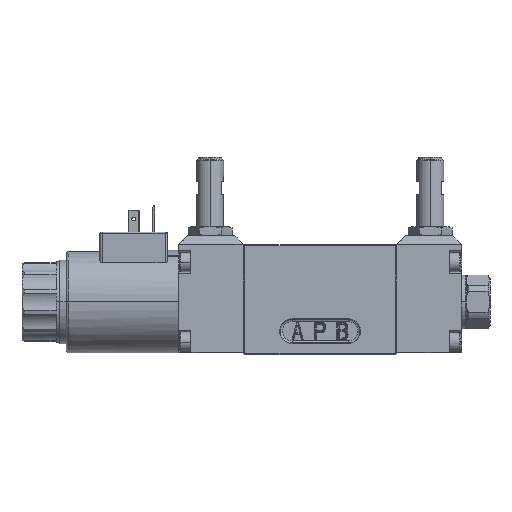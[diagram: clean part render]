
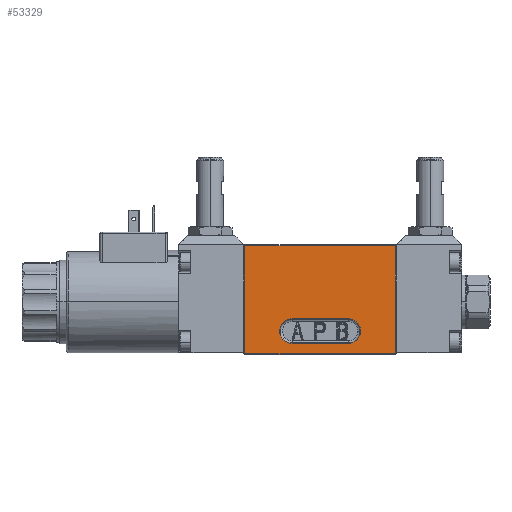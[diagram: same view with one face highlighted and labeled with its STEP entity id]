
A CAD part, top view. The second image highlights one B-rep face of the part: STEP entity #53329.
In plain terms, the highlighted planar face has unit normal (0, 0, 1).
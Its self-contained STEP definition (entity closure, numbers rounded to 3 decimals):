
#1844 = VERTEX_POINT ( 'NONE', #45154 ) ;
#4554 = CIRCLE ( 'NONE', #81325, 5.471 ) ;
#4630 = EDGE_CURVE ( 'NONE', #50655, #25765, #44334, .T. ) ;
#8111 = LINE ( 'NONE', #74938, #25015 ) ;
#8466 = ORIENTED_EDGE ( 'NONE', *, *, #73777, .T. ) ;
#11194 = LINE ( 'NONE', #11579, #74013 ) ;
#11559 = CARTESIAN_POINT ( 'NONE',  ( 33.5, -24., 23. ) ) ;
#11579 = CARTESIAN_POINT ( 'NONE',  ( 12.5, -18.971, 23. ) ) ;
#13058 = FACE_BOUND ( 'NONE', #48608, .T. ) ;
#13321 = CARTESIAN_POINT ( 'NONE',  ( 12.5, -13.5, 23. ) ) ;
#13627 = LINE ( 'NONE', #33907, #23754 ) ;
#13854 = ORIENTED_EDGE ( 'NONE', *, *, #81715, .T. ) ;
#13978 = AXIS2_PLACEMENT_3D ( 'NONE', #13321, #35913, #70758 ) ;
#15105 = AXIS2_PLACEMENT_3D ( 'NONE', #70389, #77564, #84764 ) ;
#17085 = VECTOR ( 'NONE', #89185, 1000. ) ;
#17713 = CARTESIAN_POINT ( 'NONE',  ( -33.5, 24.5, 23. ) ) ;
#18570 = VERTEX_POINT ( 'NONE', #28247 ) ;
#18616 = VECTOR ( 'NONE', #72155, 1000. ) ;
#20267 = DIRECTION ( 'NONE',  ( 0., 0., -1. ) ) ;
#23391 = CARTESIAN_POINT ( 'NONE',  ( 33.5, 24.5, 23. ) ) ;
#23754 = VECTOR ( 'NONE', #27334, 1000. ) ;
#24979 = CARTESIAN_POINT ( 'NONE',  ( 17.971, -13.5, 23. ) ) ;
#25015 = VECTOR ( 'NONE', #39162, 1000. ) ;
#25437 = ORIENTED_EDGE ( 'NONE', *, *, #57329, .T. ) ;
#25765 = VERTEX_POINT ( 'NONE', #23391 ) ;
#26039 = DIRECTION ( 'NONE',  ( 0., 1., 0. ) ) ;
#27023 = CARTESIAN_POINT ( 'NONE',  ( -12.5, -8.029, 23. ) ) ;
#27334 = DIRECTION ( 'NONE',  ( -1., 0., 0. ) ) ;
#28247 = CARTESIAN_POINT ( 'NONE',  ( -33.5, -23.5, 23. ) ) ;
#28640 = DIRECTION ( 'NONE',  ( 1., 0., 0. ) ) ;
#28954 = DIRECTION ( 'NONE',  ( 0., 0., 1. ) ) ;
#31031 = LINE ( 'NONE', #43986, #18616 ) ;
#33110 = VERTEX_POINT ( 'NONE', #17713 ) ;
#33357 = EDGE_CURVE ( 'NONE', #75540, #49012, #8111, .T. ) ;
#33517 = DIRECTION ( 'NONE',  ( 1., 0., 0. ) ) ;
#33907 = CARTESIAN_POINT ( 'NONE',  ( -35., 24.5, 23. ) ) ;
#35913 = DIRECTION ( 'NONE',  ( 0., 0., -1. ) ) ;
#39162 = DIRECTION ( 'NONE',  ( 1., 0., 0. ) ) ;
#43986 = CARTESIAN_POINT ( 'NONE',  ( -33.5, -24., 23. ) ) ;
#44334 = LINE ( 'NONE', #11559, #56734 ) ;
#45154 = CARTESIAN_POINT ( 'NONE',  ( -12.5, -18.971, 23. ) ) ;
#48608 = EDGE_LOOP ( 'NONE', ( #8466, #25437, #83613, #77032, #71324 ) ) ;
#48930 = ORIENTED_EDGE ( 'NONE', *, *, #85708, .T. ) ;
#49012 = VERTEX_POINT ( 'NONE', #57299 ) ;
#50655 = VERTEX_POINT ( 'NONE', #61980 ) ;
#53329 = ADVANCED_FACE ( 'NONE', ( #13058, #73601 ), #70660, .T. ) ;
#53501 = CIRCLE ( 'NONE', #15105, 5.471 ) ;
#53705 = DIRECTION ( 'NONE',  ( -1., 0., 0. ) ) ;
#55518 = CARTESIAN_POINT ( 'NONE',  ( -12.5, -13.5, 23. ) ) ;
#55801 = CARTESIAN_POINT ( 'NONE',  ( 12.5, -18.971, 23. ) ) ;
#56273 = EDGE_CURVE ( 'NONE', #74648, #1844, #11194, .T. ) ;
#56734 = VECTOR ( 'NONE', #26039, 1000. ) ;
#57299 = CARTESIAN_POINT ( 'NONE',  ( 12.5, -8.029, 23. ) ) ;
#57329 = EDGE_CURVE ( 'NONE', #63686, #74648, #53501, .T. ) ;
#61001 = LINE ( 'NONE', #88541, #17085 ) ;
#61980 = CARTESIAN_POINT ( 'NONE',  ( 33.5, -23.5, 23. ) ) ;
#63686 = VERTEX_POINT ( 'NONE', #24979 ) ;
#64457 = CARTESIAN_POINT ( 'NONE',  ( -35., -24., 23. ) ) ;
#64569 = AXIS2_PLACEMENT_3D ( 'NONE', #64457, #28954, #28640 ) ;
#69961 = CIRCLE ( 'NONE', #13978, 5.471 ) ;
#70389 = CARTESIAN_POINT ( 'NONE',  ( 12.5, -13.5, 23. ) ) ;
#70660 = PLANE ( 'NONE',  #64569 ) ;
#70758 = DIRECTION ( 'NONE',  ( 1., 0., 0. ) ) ;
#71324 = ORIENTED_EDGE ( 'NONE', *, *, #33357, .T. ) ;
#72155 = DIRECTION ( 'NONE',  ( 0., -1., 0. ) ) ;
#73601 = FACE_OUTER_BOUND ( 'NONE', #87882, .T. ) ;
#73777 = EDGE_CURVE ( 'NONE', #49012, #63686, #69961, .T. ) ;
#74013 = VECTOR ( 'NONE', #53705, 1000. ) ;
#74648 = VERTEX_POINT ( 'NONE', #55801 ) ;
#74938 = CARTESIAN_POINT ( 'NONE',  ( 12.5, -8.029, 23. ) ) ;
#75540 = VERTEX_POINT ( 'NONE', #27023 ) ;
#77032 = ORIENTED_EDGE ( 'NONE', *, *, #78529, .T. ) ;
#77564 = DIRECTION ( 'NONE',  ( 0., 0., -1. ) ) ;
#78529 = EDGE_CURVE ( 'NONE', #1844, #75540, #4554, .T. ) ;
#81325 = AXIS2_PLACEMENT_3D ( 'NONE', #55518, #20267, #33517 ) ;
#81715 = EDGE_CURVE ( 'NONE', #25765, #33110, #13627, .T. ) ;
#82705 = ORIENTED_EDGE ( 'NONE', *, *, #86620, .T. ) ;
#83613 = ORIENTED_EDGE ( 'NONE', *, *, #56273, .T. ) ;
#84764 = DIRECTION ( 'NONE',  ( 1., 0., 0. ) ) ;
#85708 = EDGE_CURVE ( 'NONE', #33110, #18570, #31031, .T. ) ;
#86620 = EDGE_CURVE ( 'NONE', #18570, #50655, #61001, .T. ) ;
#87532 = ORIENTED_EDGE ( 'NONE', *, *, #4630, .T. ) ;
#87882 = EDGE_LOOP ( 'NONE', ( #82705, #87532, #13854, #48930 ) ) ;
#88541 = CARTESIAN_POINT ( 'NONE',  ( -35., -23.5, 23. ) ) ;
#89185 = DIRECTION ( 'NONE',  ( 1., 0., 0. ) ) ;
